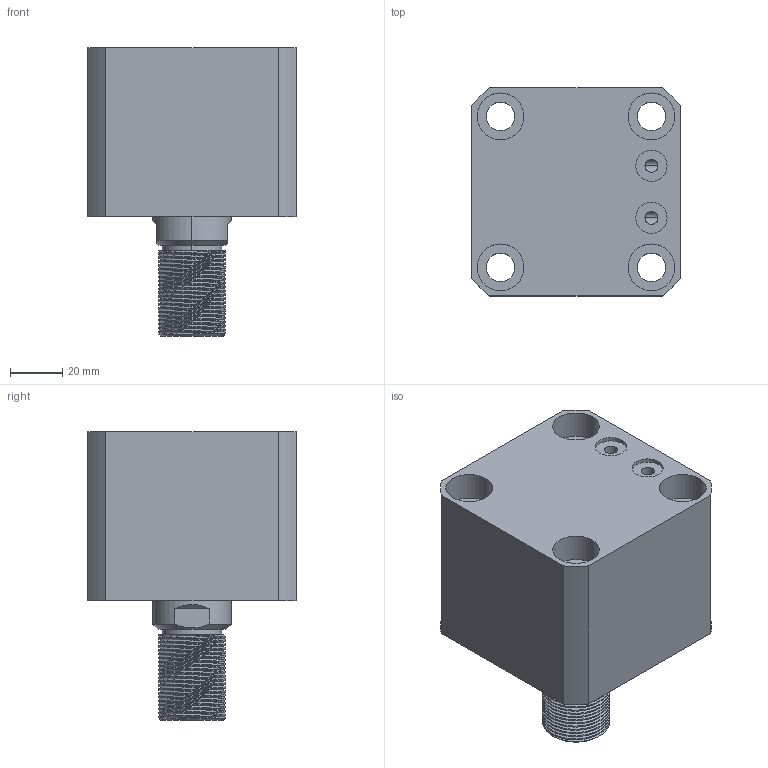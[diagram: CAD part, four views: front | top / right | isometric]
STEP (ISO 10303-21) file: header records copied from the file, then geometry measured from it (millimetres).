
FILE_DESCRIPTION (( 'STEP AP203' ), '1' );
FILE_NAME ('CHTB-SDMA50-5W.STEP', '2018-05-19T03:21:32', ( '' ), ( '' ), 'SwSTEP 2.0', 'SolidWorks 2015', '' );
FILE_SCHEMA (( 'CONFIG_CONTROL_DESIGN' ));
Length unit declared in the file: millimetre
Products named in the file (5): M6; CHTB-SDMA50-5W; 掛极SDMB50-5W; 活塞杆SDMB50-5W; CHTM-SDMA50QG
Assembly tree (5 placements, depth 2):
  CHTB-SDMA50-5W
    掛极SDMB50-5W
    活塞杆SDMB50-5W
    CHTM-SDMA50QG
    M6  x2
Bounding box: 80 x 80 x 111 mm (x, y, z)
Volume: 384293.1 mm3; surface area: 86063.3 mm2
Topology: 5 solids, 5 shells, 306 faces, 822 edges, 547 vertices
Faces by surface type: cylinder 175, plane 58, cone 29, bspline 28, torus 16
Entity records: 17707 total; most frequent: CARTESIAN_POINT 10946, ORIENTED_EDGE 1450, DIRECTION 1137, EDGE_CURVE 725, VERTEX_POINT 486, AXIS2_PLACEMENT_3D 456, EDGE_LOOP 313, ADVANCED_FACE 271
